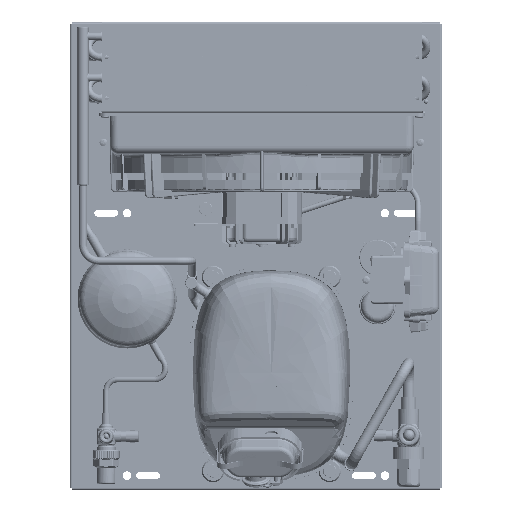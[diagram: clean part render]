
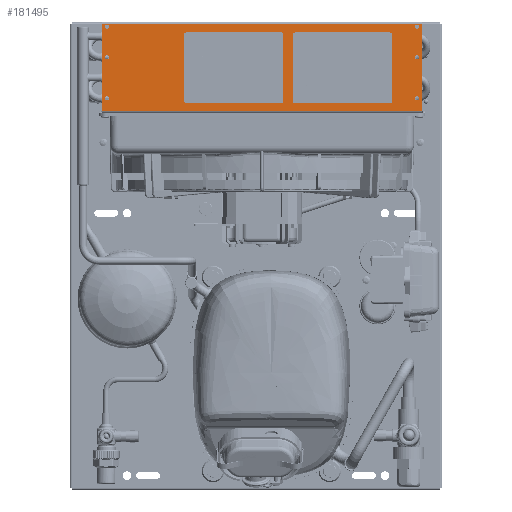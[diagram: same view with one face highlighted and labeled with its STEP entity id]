
A CAD part, top view. The second image highlights one B-rep face of the part: STEP entity #181495.
In plain terms, the highlighted planar face has unit normal (0, 0, 1).
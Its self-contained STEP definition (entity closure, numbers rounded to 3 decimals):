
#49020=LINE('',#240930,#57977);
#49033=LINE('',#240977,#57990);
#49037=LINE('',#240986,#57994);
#49039=LINE('',#240990,#57996);
#57977=VECTOR('',#206804,1000.);
#57990=VECTOR('',#206851,1000.);
#57994=VECTOR('',#206861,1000.);
#57996=VECTOR('',#206867,1000.);
#69360=ORIENTED_EDGE('',*,*,#112046,.F.);
#69361=ORIENTED_EDGE('',*,*,#112047,.F.);
#69362=ORIENTED_EDGE('',*,*,#112048,.F.);
#69363=ORIENTED_EDGE('',*,*,#112049,.F.);
#69364=ORIENTED_EDGE('',*,*,#112050,.F.);
#69365=ORIENTED_EDGE('',*,*,#112051,.F.);
#69366=ORIENTED_EDGE('',*,*,#112038,.T.);
#69367=ORIENTED_EDGE('',*,*,#112043,.F.);
#69368=ORIENTED_EDGE('',*,*,#112015,.F.);
#69369=ORIENTED_EDGE('',*,*,#112045,.T.);
#112015=EDGE_CURVE('',#134148,#134149,#49020,.T.);
#112038=EDGE_CURVE('',#134166,#134164,#49033,.T.);
#112043=EDGE_CURVE('',#134149,#134164,#49037,.T.);
#112045=EDGE_CURVE('',#134148,#134166,#49039,.T.);
#112046=EDGE_CURVE('',#134168,#134168,#148890,.T.);
#112047=EDGE_CURVE('',#134169,#134169,#148891,.T.);
#112048=EDGE_CURVE('',#134170,#134170,#148892,.T.);
#112049=EDGE_CURVE('',#134171,#134171,#148893,.T.);
#112050=EDGE_CURVE('',#134172,#134172,#148894,.T.);
#112051=EDGE_CURVE('',#134173,#134173,#148895,.T.);
#134148=VERTEX_POINT('',#240929);
#134149=VERTEX_POINT('',#240931);
#134164=VERTEX_POINT('',#240975);
#134166=VERTEX_POINT('',#240978);
#134168=VERTEX_POINT('',#240993);
#134169=VERTEX_POINT('',#240995);
#134170=VERTEX_POINT('',#240997);
#134171=VERTEX_POINT('',#240999);
#134172=VERTEX_POINT('',#241001);
#134173=VERTEX_POINT('',#241003);
#148890=CIRCLE('',#191659,2.25);
#148891=CIRCLE('',#191660,2.25);
#148892=CIRCLE('',#191661,2.25);
#148893=CIRCLE('',#191662,2.25);
#148894=CIRCLE('',#191663,2.25);
#148895=CIRCLE('',#191664,2.25);
#154158=EDGE_LOOP('',(#69360));
#154159=EDGE_LOOP('',(#69361));
#154160=EDGE_LOOP('',(#69362));
#154161=EDGE_LOOP('',(#69363));
#154162=EDGE_LOOP('',(#69364));
#154163=EDGE_LOOP('',(#69365));
#154164=EDGE_LOOP('',(#69366,#69367,#69368,#69369));
#165800=FACE_BOUND('',#154158,.T.);
#165801=FACE_BOUND('',#154159,.T.);
#165802=FACE_BOUND('',#154160,.T.);
#165803=FACE_BOUND('',#154161,.T.);
#165804=FACE_BOUND('',#154162,.T.);
#165805=FACE_BOUND('',#154163,.T.);
#165806=FACE_BOUND('',#154164,.T.);
#175898=PLANE('',#191658);
#181495=ADVANCED_FACE('',(#165800,#165801,#165802,#165803,#165804,#165805,
#165806),#175898,.F.);
#191658=AXIS2_PLACEMENT_3D('',#240991,#206868,#206869);
#191659=AXIS2_PLACEMENT_3D('',#240992,#206870,#206871);
#191660=AXIS2_PLACEMENT_3D('',#240994,#206872,#206873);
#191661=AXIS2_PLACEMENT_3D('',#240996,#206874,#206875);
#191662=AXIS2_PLACEMENT_3D('',#240998,#206876,#206877);
#191663=AXIS2_PLACEMENT_3D('',#241000,#206878,#206879);
#191664=AXIS2_PLACEMENT_3D('',#241002,#206880,#206881);
#206804=DIRECTION('',(1.,0.,0.));
#206851=DIRECTION('',(1.,0.,0.));
#206861=DIRECTION('',(0.,-1.,0.));
#206867=DIRECTION('',(0.,-1.,0.));
#206868=DIRECTION('',(0.,0.,-1.));
#206869=DIRECTION('',(-1.,0.,0.));
#206870=DIRECTION('',(0.,0.,1.));
#206871=DIRECTION('',(0.,1.,0.));
#206872=DIRECTION('',(0.,0.,1.));
#206873=DIRECTION('',(0.,1.,0.));
#206874=DIRECTION('',(0.,0.,1.));
#206875=DIRECTION('',(0.,1.,0.));
#206876=DIRECTION('',(0.,0.,1.));
#206877=DIRECTION('',(0.,1.,0.));
#206878=DIRECTION('',(0.,0.,1.));
#206879=DIRECTION('',(0.,1.,0.));
#206880=DIRECTION('',(0.,0.,1.));
#206881=DIRECTION('',(0.,1.,0.));
#240929=CARTESIAN_POINT('',(-45.5,167.5,0.));
#240930=CARTESIAN_POINT('',(-47.5,167.5,0.));
#240931=CARTESIAN_POINT('',(45.5,167.5,0.));
#240975=CARTESIAN_POINT('',(45.5,-167.5,0.));
#240977=CARTESIAN_POINT('',(-47.5,-167.5,0.));
#240978=CARTESIAN_POINT('',(-45.5,-167.5,0.));
#240986=CARTESIAN_POINT('',(45.5,167.5,0.));
#240990=CARTESIAN_POINT('',(-45.5,167.5,0.));
#240991=CARTESIAN_POINT('',(-47.5,167.5,0.));
#240992=CARTESIAN_POINT('',(42.5,162.5,0.));
#240993=CARTESIAN_POINT('',(42.5,164.75,0.));
#240994=CARTESIAN_POINT('',(42.5,-162.5,0.));
#240995=CARTESIAN_POINT('',(42.5,-160.25,0.));
#240996=CARTESIAN_POINT('',(-32.5,-162.5,0.));
#240997=CARTESIAN_POINT('',(-32.5,-160.25,0.));
#240998=CARTESIAN_POINT('',(-32.5,162.5,0.));
#240999=CARTESIAN_POINT('',(-32.5,164.75,0.));
#241000=CARTESIAN_POINT('',(10.5,-162.5,0.));
#241001=CARTESIAN_POINT('',(10.5,-160.25,0.));
#241002=CARTESIAN_POINT('',(10.5,162.5,0.));
#241003=CARTESIAN_POINT('',(10.5,164.75,0.));
